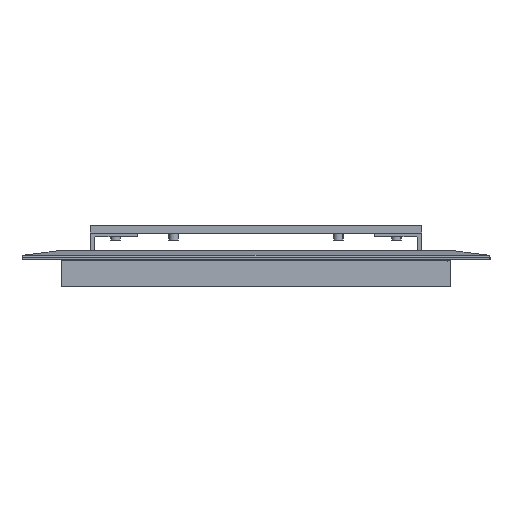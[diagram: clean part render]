
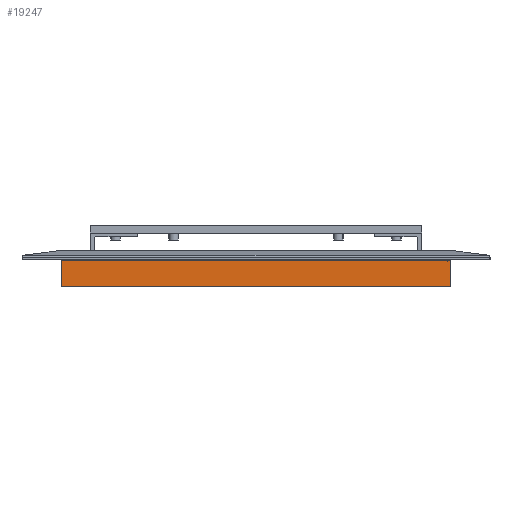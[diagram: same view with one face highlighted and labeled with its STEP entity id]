
A CAD part, front view. The second image highlights one B-rep face of the part: STEP entity #19247.
In plain terms, the highlighted planar face has unit normal (0, -1, 0).
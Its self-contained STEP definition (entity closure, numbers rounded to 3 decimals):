
#445 = EDGE_LOOP ( 'NONE', ( #17714, #22178, #22428, #28814 ) ) ;
#1717 = CARTESIAN_POINT ( 'NONE',  ( -208., -458., -29. ) ) ;
#2471 = VERTEX_POINT ( 'NONE', #25530 ) ;
#2587 = CARTESIAN_POINT ( 'NONE',  ( 208., -458., -29. ) ) ;
#6524 = CARTESIAN_POINT ( 'NONE',  ( 208., -458., 0. ) ) ;
#8605 = AXIS2_PLACEMENT_3D ( 'NONE', #32739, #32550, #15448 ) ;
#8629 = CARTESIAN_POINT ( 'NONE',  ( 208., -458., -1. ) ) ;
#9678 = VECTOR ( 'NONE', #25356, 1000. ) ;
#9834 = VECTOR ( 'NONE', #32195, 1000. ) ;
#11998 = DIRECTION ( 'NONE',  ( 0., 0., -1. ) ) ;
#13218 = VERTEX_POINT ( 'NONE', #1717 ) ;
#15448 = DIRECTION ( 'NONE',  ( 0., 0., -1. ) ) ;
#15537 = CARTESIAN_POINT ( 'NONE',  ( 3250., -458., -29. ) ) ;
#15865 = EDGE_CURVE ( 'NONE', #15884, #2471, #20055, .T. ) ;
#15884 = VERTEX_POINT ( 'NONE', #8629 ) ;
#17714 = ORIENTED_EDGE ( 'NONE', *, *, #36801, .F. ) ;
#17757 = CARTESIAN_POINT ( 'NONE',  ( -3250., -458., -1. ) ) ;
#18470 = VECTOR ( 'NONE', #35859, 1000. ) ;
#19247 = ADVANCED_FACE ( 'NONE', ( #21367 ), #20986, .F. ) ;
#20055 = LINE ( 'NONE', #17757, #9834 ) ;
#20986 = PLANE ( 'NONE',  #8605 ) ;
#21367 = FACE_OUTER_BOUND ( 'NONE', #445, .T. ) ;
#22178 = ORIENTED_EDGE ( 'NONE', *, *, #27528, .F. ) ;
#22428 = ORIENTED_EDGE ( 'NONE', *, *, #25611, .F. ) ;
#23383 = VERTEX_POINT ( 'NONE', #2587 ) ;
#25356 = DIRECTION ( 'NONE',  ( 0., 0., 1. ) ) ;
#25530 = CARTESIAN_POINT ( 'NONE',  ( -208., -458., -1. ) ) ;
#25611 = EDGE_CURVE ( 'NONE', #15884, #23383, #29671, .T. ) ;
#27516 = LINE ( 'NONE', #15537, #18470 ) ;
#27528 = EDGE_CURVE ( 'NONE', #23383, #13218, #27516, .T. ) ;
#28062 = VECTOR ( 'NONE', #11998, 1000. ) ;
#28814 = ORIENTED_EDGE ( 'NONE', *, *, #15865, .T. ) ;
#29481 = CARTESIAN_POINT ( 'NONE',  ( -208., -458., 0. ) ) ;
#29671 = LINE ( 'NONE', #6524, #28062 ) ;
#30866 = LINE ( 'NONE', #29481, #9678 ) ;
#32195 = DIRECTION ( 'NONE',  ( -1., 0., 0. ) ) ;
#32550 = DIRECTION ( 'NONE',  ( 0., 1., 0. ) ) ;
#32739 = CARTESIAN_POINT ( 'NONE',  ( 3250., -458., 0. ) ) ;
#35859 = DIRECTION ( 'NONE',  ( -1., 0., 0. ) ) ;
#36801 = EDGE_CURVE ( 'NONE', #13218, #2471, #30866, .T. ) ;
